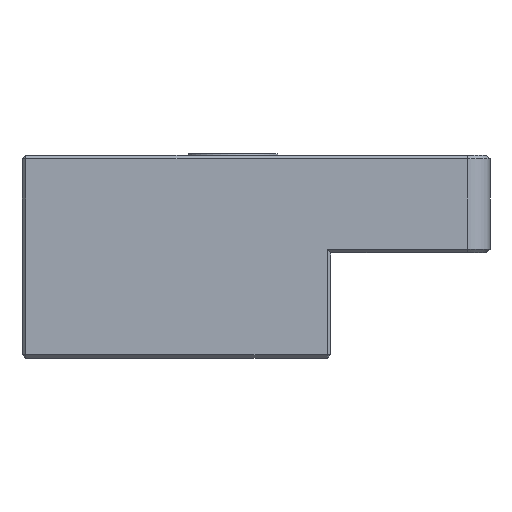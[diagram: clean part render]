
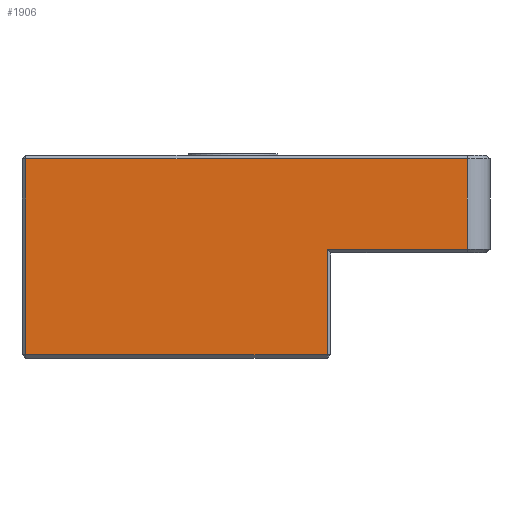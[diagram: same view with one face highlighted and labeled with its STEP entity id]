
A CAD part, left-side view. The second image highlights one B-rep face of the part: STEP entity #1906.
In plain terms, the highlighted planar face has unit normal (-1, 0, 0).
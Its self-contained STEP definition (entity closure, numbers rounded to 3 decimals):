
#43 = EDGE_CURVE ( 'NONE', #4803, #3287, #2903, .T. ) ;
#165 = DIRECTION ( 'NONE',  ( 0., 0., 1. ) ) ;
#170 = VECTOR ( 'NONE', #1573, 1000. ) ;
#212 = CARTESIAN_POINT ( 'NONE',  ( -47.5, -63.135, -0.5 ) ) ;
#415 = LINE ( 'NONE', #3421, #3258 ) ;
#530 = LINE ( 'NONE', #943, #2232 ) ;
#551 = EDGE_CURVE ( 'NONE', #3287, #4974, #1801, .T. ) ;
#559 = EDGE_CURVE ( 'NONE', #824, #2671, #415, .T. ) ;
#603 = EDGE_CURVE ( 'NONE', #4974, #2398, #1928, .T. ) ;
#661 = EDGE_CURVE ( 'NONE', #2398, #824, #530, .T. ) ;
#824 = VERTEX_POINT ( 'NONE', #1016 ) ;
#943 = CARTESIAN_POINT ( 'NONE',  ( -47.5, -44.5, -13. ) ) ;
#1016 = CARTESIAN_POINT ( 'NONE',  ( -47.5, -44.5, -12.5 ) ) ;
#1031 = DIRECTION ( 'NONE',  ( 0., 0., -1. ) ) ;
#1267 = EDGE_CURVE ( 'NONE', #4803, #2671, #4579, .T. ) ;
#1371 = DIRECTION ( 'NONE',  ( 0., -1., 0. ) ) ;
#1472 = DIRECTION ( 'NONE',  ( 0., 0., -1. ) ) ;
#1573 = DIRECTION ( 'NONE',  ( 0., 1., 0. ) ) ;
#1678 = EDGE_LOOP ( 'NONE', ( #2371, #2260, #4848, #3035, #4276, #4569 ) ) ;
#1801 = LINE ( 'NONE', #1889, #2175 ) ;
#1889 = CARTESIAN_POINT ( 'NONE',  ( -47.5, -4.5, 0. ) ) ;
#1906 = ADVANCED_FACE ( 'NONE', ( #2765 ), #4927, .F. ) ;
#1907 = AXIS2_PLACEMENT_3D ( 'NONE', #4157, #2614, #1031 ) ;
#1928 = LINE ( 'NONE', #4229, #4409 ) ;
#2175 = VECTOR ( 'NONE', #3034, 1000. ) ;
#2232 = VECTOR ( 'NONE', #165, 1000. ) ;
#2260 = ORIENTED_EDGE ( 'NONE', *, *, #559, .T. ) ;
#2371 = ORIENTED_EDGE ( 'NONE', *, *, #661, .T. ) ;
#2398 = VERTEX_POINT ( 'NONE', #3120 ) ;
#2614 = DIRECTION ( 'NONE',  ( 1., 0., 0. ) ) ;
#2667 = CARTESIAN_POINT ( 'NONE',  ( -47.5, -4., -0.5 ) ) ;
#2671 = VERTEX_POINT ( 'NONE', #4110 ) ;
#2765 = FACE_OUTER_BOUND ( 'NONE', #1678, .T. ) ;
#2903 = LINE ( 'NONE', #2667, #170 ) ;
#3034 = DIRECTION ( 'NONE',  ( 0., 0., -1. ) ) ;
#3035 = ORIENTED_EDGE ( 'NONE', *, *, #43, .T. ) ;
#3120 = CARTESIAN_POINT ( 'NONE',  ( -47.5, -44.5, -26.5 ) ) ;
#3258 = VECTOR ( 'NONE', #3824, 1000. ) ;
#3287 = VERTEX_POINT ( 'NONE', #3867 ) ;
#3421 = CARTESIAN_POINT ( 'NONE',  ( -47.5, -25., -12.5 ) ) ;
#3431 = VECTOR ( 'NONE', #1472, 1000. ) ;
#3824 = DIRECTION ( 'NONE',  ( 0., -1., 0. ) ) ;
#3831 = CARTESIAN_POINT ( 'NONE',  ( -47.5, -4.5, -26.5 ) ) ;
#3867 = CARTESIAN_POINT ( 'NONE',  ( -47.5, -4.5, -0.5 ) ) ;
#4110 = CARTESIAN_POINT ( 'NONE',  ( -47.5, -63.135, -12.5 ) ) ;
#4157 = CARTESIAN_POINT ( 'NONE',  ( -47.5, -25., 0. ) ) ;
#4229 = CARTESIAN_POINT ( 'NONE',  ( -47.5, -25., -26.5 ) ) ;
#4276 = ORIENTED_EDGE ( 'NONE', *, *, #551, .T. ) ;
#4409 = VECTOR ( 'NONE', #1371, 1000. ) ;
#4569 = ORIENTED_EDGE ( 'NONE', *, *, #603, .T. ) ;
#4579 = LINE ( 'NONE', #4601, #3431 ) ;
#4601 = CARTESIAN_POINT ( 'NONE',  ( -47.5, -63.135, -13. ) ) ;
#4803 = VERTEX_POINT ( 'NONE', #212 ) ;
#4848 = ORIENTED_EDGE ( 'NONE', *, *, #1267, .F. ) ;
#4927 = PLANE ( 'NONE',  #1907 ) ;
#4974 = VERTEX_POINT ( 'NONE', #3831 ) ;
